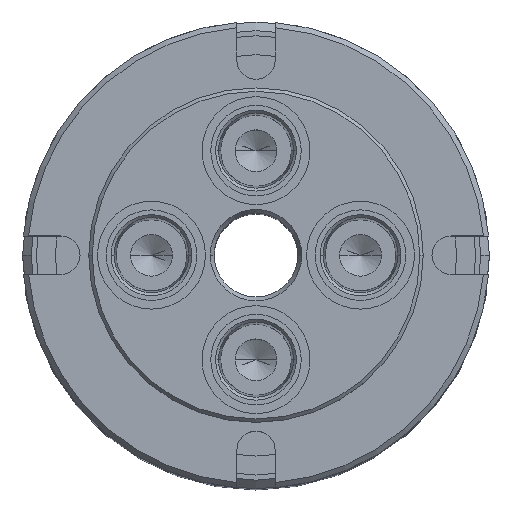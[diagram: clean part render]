
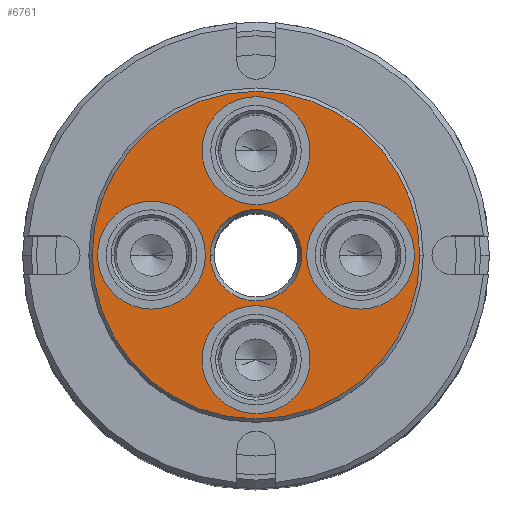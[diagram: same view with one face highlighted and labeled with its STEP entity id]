
A CAD part, top view. The second image highlights one B-rep face of the part: STEP entity #6761.
In plain terms, the highlighted planar face has unit normal (0, 0, 1).
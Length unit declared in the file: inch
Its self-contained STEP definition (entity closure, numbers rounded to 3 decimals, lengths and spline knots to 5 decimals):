
#19 = AXIS2_PLACEMENT_3D ( 'NONE', #2696, #2697, #2698 ) ;
#27 = CIRCLE ( 'NONE', #63, 0.484 ) ;
#45 = CIRCLE ( 'NONE', #19, 0.484 ) ;
#63 = AXIS2_PLACEMENT_3D ( 'NONE', #2628, #2629, #2630 ) ;
#155 = CIRCLE ( 'NONE', #158, 0.484 ) ;
#158 = AXIS2_PLACEMENT_3D ( 'NONE', #4857, #4858, #4859 ) ;
#755 = CARTESIAN_POINT ( 'NONE',  ( 0., 0., 0. ) ) ;
#756 = DIRECTION ( 'NONE',  ( 0., 0., -1. ) ) ;
#757 = DIRECTION ( 'NONE',  ( -1., 0., 0. ) ) ;
#1006 = CARTESIAN_POINT ( 'NONE',  ( 0.9375, 0., 0. ) ) ;
#1007 = DIRECTION ( 'NONE',  ( 0., 0., 1. ) ) ;
#1008 = DIRECTION ( 'NONE',  ( 0., -1., 0. ) ) ;
#1307 = CARTESIAN_POINT ( 'NONE',  ( 0., 0., 0. ) ) ;
#1308 = DIRECTION ( 'NONE',  ( 0., 0., -1. ) ) ;
#1309 = DIRECTION ( 'NONE',  ( -1., 0., 0. ) ) ;
#1372 = CARTESIAN_POINT ( 'NONE',  ( 0., 0.9375, 0. ) ) ;
#1373 = DIRECTION ( 'NONE',  ( 0., 0., 1. ) ) ;
#1374 = DIRECTION ( 'NONE',  ( 1., 0., 0. ) ) ;
#1476 = CARTESIAN_POINT ( 'NONE',  ( -0.484, -0.9375, 0. ) ) ;
#1505 = CARTESIAN_POINT ( 'NONE',  ( 0.484, 0.9375, 0. ) ) ;
#1730 = CARTESIAN_POINT ( 'NONE',  ( 0.484, -0.9375, 0. ) ) ;
#2221 = FACE_BOUND ( 'NONE', #7411, .T. ) ;
#2222 = FACE_BOUND ( 'NONE', #7476, .T. ) ;
#2228 = FACE_BOUND ( 'NONE', #7474, .T. ) ;
#2231 = FACE_BOUND ( 'NONE', #7444, .T. ) ;
#2232 = FACE_OUTER_BOUND ( 'NONE', #5755, .T. ) ;
#2233 = PLANE ( 'NONE',  #3287 ) ;
#2234 = FACE_BOUND ( 'NONE', #7258, .T. ) ;
#2246 = CARTESIAN_POINT ( 'NONE',  ( 0., 0., 0. ) ) ;
#2247 = DIRECTION ( 'NONE',  ( 0., 0., -1. ) ) ;
#2248 = DIRECTION ( 'NONE',  ( -1., 0., 0. ) ) ;
#2276 = CARTESIAN_POINT ( 'NONE',  ( 0., 0., 0. ) ) ;
#2277 = DIRECTION ( 'NONE',  ( 0., 0., 1. ) ) ;
#2278 = DIRECTION ( 'NONE',  ( -1., 0., 0. ) ) ;
#2357 = CARTESIAN_POINT ( 'NONE',  ( 0., -0.9375, 0. ) ) ;
#2358 = DIRECTION ( 'NONE',  ( 0., 0., 1. ) ) ;
#2359 = DIRECTION ( 'NONE',  ( -1., 0., 0. ) ) ;
#2369 = CARTESIAN_POINT ( 'NONE',  ( 0., -0.9375, 0. ) ) ;
#2370 = DIRECTION ( 'NONE',  ( 0., 0., 1. ) ) ;
#2371 = DIRECTION ( 'NONE',  ( -1., 0., 0. ) ) ;
#2628 = CARTESIAN_POINT ( 'NONE',  ( 0.9375, 0., 0. ) ) ;
#2629 = DIRECTION ( 'NONE',  ( 0., 0., 1. ) ) ;
#2630 = DIRECTION ( 'NONE',  ( 0., -1., 0. ) ) ;
#2696 = CARTESIAN_POINT ( 'NONE',  ( -0.9375, 0., 0. ) ) ;
#2697 = DIRECTION ( 'NONE',  ( 0., 0., 1. ) ) ;
#2698 = DIRECTION ( 'NONE',  ( 0., 1., 0. ) ) ;
#2977 = AXIS2_PLACEMENT_3D ( 'NONE', #755, #756, #757 ) ;
#2983 = CIRCLE ( 'NONE', #3094, 0.484 ) ;
#3001 = CIRCLE ( 'NONE', #2977, 0.41 ) ;
#3094 = AXIS2_PLACEMENT_3D ( 'NONE', #1006, #1007, #1008 ) ;
#3204 = CIRCLE ( 'NONE', #3366, 1.469 ) ;
#3266 = CIRCLE ( 'NONE', #3291, 0.484 ) ;
#3269 = CIRCLE ( 'NONE', #3306, 0.484 ) ;
#3287 = AXIS2_PLACEMENT_3D ( 'NONE', #2246, #2247, #2248 ) ;
#3291 = AXIS2_PLACEMENT_3D ( 'NONE', #2357, #2358, #2359 ) ;
#3306 = AXIS2_PLACEMENT_3D ( 'NONE', #2369, #2370, #2371 ) ;
#3366 = AXIS2_PLACEMENT_3D ( 'NONE', #2276, #2277, #2278 ) ;
#3779 = ORIENTED_EDGE ( 'NONE', *, *, #6427, .T. ) ;
#3784 = ORIENTED_EDGE ( 'NONE', *, *, #6770, .T. ) ;
#3785 = ORIENTED_EDGE ( 'NONE', *, *, #7052, .F. ) ;
#3786 = ORIENTED_EDGE ( 'NONE', *, *, #7096, .F. ) ;
#3787 = ORIENTED_EDGE ( 'NONE', *, *, #6651, .F. ) ;
#3788 = ORIENTED_EDGE ( 'NONE', *, *, #6797, .F. ) ;
#3789 = ORIENTED_EDGE ( 'NONE', *, *, #6843, .F. ) ;
#3790 = ORIENTED_EDGE ( 'NONE', *, *, #7076, .T. ) ;
#3792 = ORIENTED_EDGE ( 'NONE', *, *, #6605, .T. ) ;
#3793 = ORIENTED_EDGE ( 'NONE', *, *, #6832, .F. ) ;
#3794 = ORIENTED_EDGE ( 'NONE', *, *, #6911, .F. ) ;
#3795 = ORIENTED_EDGE ( 'NONE', *, *, #6793, .F. ) ;
#4032 = CARTESIAN_POINT ( 'NONE',  ( -0.4535, 0., 0. ) ) ;
#4033 = CARTESIAN_POINT ( 'NONE',  ( 1.469, 0., 0. ) ) ;
#4045 = CARTESIAN_POINT ( 'NONE',  ( -0.41, 0., 0. ) ) ;
#4057 = CARTESIAN_POINT ( 'NONE',  ( 0.41, 0., 0. ) ) ;
#4064 = CARTESIAN_POINT ( 'NONE',  ( -0.484, 0.9375, 0. ) ) ;
#4070 = CARTESIAN_POINT ( 'NONE',  ( -1.469, 0., 0. ) ) ;
#4105 = CARTESIAN_POINT ( 'NONE',  ( 1.4215, 0., 0. ) ) ;
#4144 = CARTESIAN_POINT ( 'NONE',  ( 0.4535, 0., 0. ) ) ;
#4189 = CARTESIAN_POINT ( 'NONE',  ( -1.4215, 0., 0. ) ) ;
#4250 = CARTESIAN_POINT ( 'NONE',  ( 0., 0., 0. ) ) ;
#4251 = DIRECTION ( 'NONE',  ( 0., 0., 1. ) ) ;
#4252 = DIRECTION ( 'NONE',  ( -1., 0., 0. ) ) ;
#4857 = CARTESIAN_POINT ( 'NONE',  ( -0.9375, 0., 0. ) ) ;
#4858 = DIRECTION ( 'NONE',  ( 0., 0., 1. ) ) ;
#4859 = DIRECTION ( 'NONE',  ( 0., 1., 0. ) ) ;
#5648 = CARTESIAN_POINT ( 'NONE',  ( 0., 0.9375, 0. ) ) ;
#5649 = DIRECTION ( 'NONE',  ( 0., 0., 1. ) ) ;
#5650 = DIRECTION ( 'NONE',  ( 1., 0., 0. ) ) ;
#5755 = EDGE_LOOP ( 'NONE', ( #3784, #3779 ) ) ;
#5837 = AXIS2_PLACEMENT_3D ( 'NONE', #4250, #4251, #4252 ) ;
#5841 = CIRCLE ( 'NONE', #5837, 1.469 ) ;
#6085 = VERTEX_POINT ( 'NONE', #4032 ) ;
#6086 = VERTEX_POINT ( 'NONE', #4033 ) ;
#6098 = VERTEX_POINT ( 'NONE', #4045 ) ;
#6110 = VERTEX_POINT ( 'NONE', #4057 ) ;
#6117 = VERTEX_POINT ( 'NONE', #4064 ) ;
#6123 = VERTEX_POINT ( 'NONE', #4070 ) ;
#6158 = VERTEX_POINT ( 'NONE', #4105 ) ;
#6197 = VERTEX_POINT ( 'NONE', #4144 ) ;
#6242 = VERTEX_POINT ( 'NONE', #4189 ) ;
#6427 = EDGE_CURVE ( 'NONE', #6086, #6123, #5841, .T. ) ;
#6605 = EDGE_CURVE ( 'NONE', #6110, #6098, #3001, .T. ) ;
#6651 = EDGE_CURVE ( 'NONE', #6197, #6158, #2983, .T. ) ;
#6761 = ADVANCED_FACE ( 'NONE', ( #2222, #2228, #2234, #2231, #2221, #2232 ), #2233, .F. ) ;
#6770 = EDGE_CURVE ( 'NONE', #6123, #6086, #3204, .T. ) ;
#6793 = EDGE_CURVE ( 'NONE', #7123, #7327, #3266, .T. ) ;
#6797 = EDGE_CURVE ( 'NONE', #7327, #7123, #3269, .T. ) ;
#6832 = EDGE_CURVE ( 'NONE', #6158, #6197, #27, .T. ) ;
#6843 = EDGE_CURVE ( 'NONE', #6242, #6085, #45, .T. ) ;
#6911 = EDGE_CURVE ( 'NONE', #6085, #6242, #155, .T. ) ;
#7052 = EDGE_CURVE ( 'NONE', #7138, #6117, #7665, .T. ) ;
#7076 = EDGE_CURVE ( 'NONE', #6098, #6110, #7647, .T. ) ;
#7096 = EDGE_CURVE ( 'NONE', #6117, #7138, #7540, .T. ) ;
#7123 = VERTEX_POINT ( 'NONE', #1476 ) ;
#7138 = VERTEX_POINT ( 'NONE', #1505 ) ;
#7258 = EDGE_LOOP ( 'NONE', ( #3788, #3795 ) ) ;
#7327 = VERTEX_POINT ( 'NONE', #1730 ) ;
#7411 = EDGE_LOOP ( 'NONE', ( #3785, #3786 ) ) ;
#7444 = EDGE_LOOP ( 'NONE', ( #3793, #3787 ) ) ;
#7474 = EDGE_LOOP ( 'NONE', ( #3794, #3789 ) ) ;
#7476 = EDGE_LOOP ( 'NONE', ( #3792, #3790 ) ) ;
#7540 = CIRCLE ( 'NONE', #7630, 0.484 ) ;
#7630 = AXIS2_PLACEMENT_3D ( 'NONE', #1372, #1373, #1374 ) ;
#7647 = CIRCLE ( 'NONE', #7737, 0.41 ) ;
#7665 = CIRCLE ( 'NONE', #7736, 0.484 ) ;
#7736 = AXIS2_PLACEMENT_3D ( 'NONE', #5648, #5649, #5650 ) ;
#7737 = AXIS2_PLACEMENT_3D ( 'NONE', #1307, #1308, #1309 ) ;
